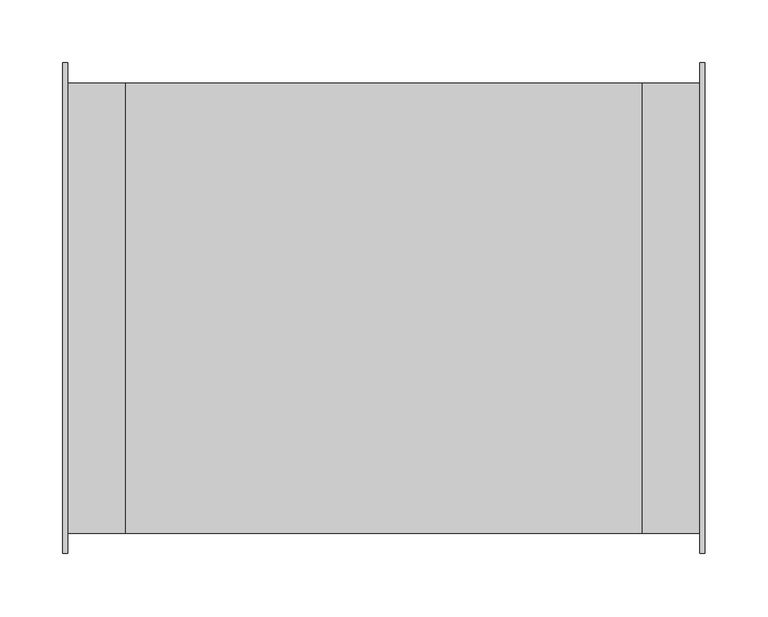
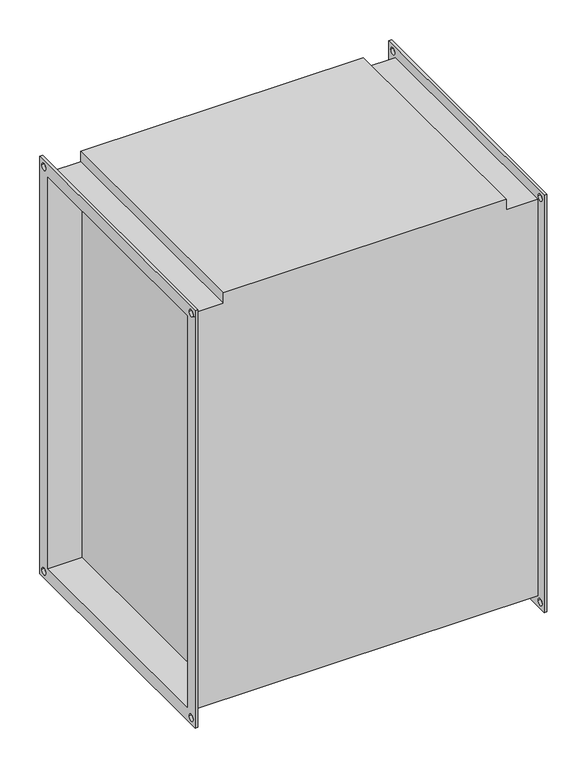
"""IFC4 building model written with IfcOpenShell, lengths in millimetres: proxy geometry, СВ_ВоздухонагревательЭлектрический_КанальныйПрямоугольный_200-1000_SPH-E : SPH-E-600x350/22,5."""

from ifc_helpers import new_model, si_unit, frame, origin, place, context, project, spatial, polyline, circle_curve, source, transform, mapped, element, save
from ifc_brep_helpers import plane_surface, revolved_surface, advanced_brep


def mechanical_equipment_5f8ae278(model_context):
    return source(origin(), model_context, "Body", "AdvancedBrep", [
        advanced_brep(
        [(-205.0, -179.0, 304.0), (-251.0, -179.0, 304.0), (-251.0, -179.0, -304.0), (251.0, -179.0, -304.0), (251.0, -179.0, 304.0), (205.0, -179.0, 304.0), (205.0, -179.0, 320.0), (-205.0, -179.0, 320.0), (-251.0, 179.0, -304.0), (251.0, 179.0, -304.0), (-251.0, 179.0, 304.0), (-205.0, 179.0, 304.0), (-205.0, 179.0, 320.0), (205.0, 179.0, 320.0), (205.0, 179.0, 304.0), (251.0, 179.0, 304.0), (205.0, 175.0, -300.0), (205.0, 175.0, 300.0), (205.0, -175.0, 300.0), (205.0, -175.0, -300.0), (-205.0, -175.0, 300.0), (-205.0, 175.0, 300.0), (-205.0, 175.0, -300.0), (-205.0, -175.0, -300.0), (-255.0, -195.0, 320.0), (-255.0, 195.0, 320.0), (-255.0, 195.0, -320.0), (-255.0, -195.0, -320.0), (-255.0, -175.0, 300.0), (-255.0, -175.0, -300.0), (-255.0, 175.0, -300.0), (-255.0, 175.0, 300.0), (-255.0, 180.0, 310.0), (-255.0, 190.0, 310.0), (-255.0, -190.0, 310.0), (-255.0, -180.0, 310.0), (-255.0, -190.0, -310.0), (-255.0, -180.0, -310.0), (-255.0, 180.0, -310.0), (-255.0, 190.0, -310.0), (-251.0, -195.0, 320.0), (-251.0, -195.0, -320.0), (-251.0, 195.0, -320.0), (-251.0, 195.0, 320.0), (-251.0, 190.0, 310.0), (-251.0, 180.0, 310.0), (-251.0, -180.0, 310.0), (-251.0, -190.0, 310.0), (-251.0, -180.0, -310.0), (-251.0, -190.0, -310.0), (-251.0, 190.0, -310.0), (-251.0, 180.0, -310.0), (251.0, 195.0, 320.0), (251.0, 195.0, -320.0), (251.0, -195.0, -320.0), (251.0, -195.0, 320.0), (251.0, 180.0, 310.0), (251.0, 190.0, 310.0), (251.0, -190.0, 310.0), (251.0, -180.0, 310.0), (251.0, -190.0, -310.0), (251.0, -180.0, -310.0), (251.0, 180.0, -310.0), (251.0, 190.0, -310.0), (255.0, 195.0, 320.0), (255.0, -195.0, 320.0), (255.0, -195.0, -320.0), (255.0, 195.0, -320.0), (255.0, 175.0, 300.0), (255.0, 175.0, -300.0), (255.0, -175.0, -300.0), (255.0, -175.0, 300.0), (255.0, 190.0, 310.0), (255.0, 180.0, 310.0), (255.0, -180.0, 310.0), (255.0, -190.0, 310.0), (255.0, -180.0, -310.0), (255.0, -190.0, -310.0), (255.0, 190.0, -310.0), (255.0, 180.0, -310.0)],
        [
            (0, 1),
            (1, 2),
            (2, 3),
            (3, 4),
            (4, 5),
            (5, 6),
            (6, 7),
            (7, 0),
            (2, 8),
            (8, 9),
            (9, 3),
            (10, 11),
            (11, 12),
            (12, 13),
            (13, 14),
            (14, 15),
            (15, 9),
            (8, 10),
            (0, 11),
            (10, 1),
            (13, 6),
            (5, 14),
            (16, 17),
            (17, 18),
            (18, 19),
            (19, 16),
            (7, 12),
            (20, 21),
            (21, 22),
            (22, 23),
            (23, 20),
            (4, 15),
            (24, 25),
            (25, 26),
            (26, 27),
            (27, 24),
            (28, 29),
            (29, 30),
            (30, 31),
            (31, 28),
            (32, 33, circle_curve(frame((-255.0, 185.0, 310.0), z_axis=(1.0, 0.0, 0.0), x_axis=(0.0, 1.0, 0.0)), 5.0)),
            (33, 32, circle_curve(frame((-255.0, 185.0, 310.0), z_axis=(1.0, 0.0, 0.0), x_axis=(0.0, 1.0, 0.0)), 5.0)),
            (34, 35, circle_curve(frame((-255.0, -185.0, 310.0), z_axis=(1.0, 0.0, 0.0), x_axis=(0.0, 1.0, 0.0)), 5.0)),
            (35, 34, circle_curve(frame((-255.0, -185.0, 310.0), z_axis=(1.0, 0.0, 0.0), x_axis=(0.0, 1.0, 0.0)), 5.0)),
            (36, 37, circle_curve(frame((-255.0, -185.0, -310.0), z_axis=(1.0, 0.0, 0.0), x_axis=(0.0, 1.0, 0.0)), 5.0)),
            (37, 36, circle_curve(frame((-255.0, -185.0, -310.0), z_axis=(1.0, 0.0, 0.0), x_axis=(0.0, 1.0, 0.0)), 5.0)),
            (38, 39, circle_curve(frame((-255.0, 185.0, -310.0), z_axis=(1.0, 0.0, 0.0), x_axis=(0.0, 1.0, 0.0)), 5.0)),
            (39, 38, circle_curve(frame((-255.0, 185.0, -310.0), z_axis=(1.0, 0.0, 0.0), x_axis=(0.0, 1.0, 0.0)), 5.0)),
            (40, 41),
            (41, 42),
            (42, 43),
            (43, 40),
            (44, 45, circle_curve(frame((-251.0, 185.0, 310.0), z_axis=(-1.0, 0.0, 0.0), x_axis=(0.0, 1.0, 0.0)), 5.0)),
            (45, 44, circle_curve(frame((-251.0, 185.0, 310.0), z_axis=(-1.0, 0.0, 0.0), x_axis=(0.0, 1.0, 0.0)), 5.0)),
            (46, 47, circle_curve(frame((-251.0, -185.0, 310.0), z_axis=(-1.0, 0.0, 0.0), x_axis=(0.0, 1.0, 0.0)), 5.0)),
            (47, 46, circle_curve(frame((-251.0, -185.0, 310.0), z_axis=(-1.0, 0.0, 0.0), x_axis=(0.0, 1.0, 0.0)), 5.0)),
            (48, 49, circle_curve(frame((-251.0, -185.0, -310.0), z_axis=(-1.0, 0.0, 0.0), x_axis=(0.0, 1.0, 0.0)), 5.0)),
            (49, 48, circle_curve(frame((-251.0, -185.0, -310.0), z_axis=(-1.0, 0.0, 0.0), x_axis=(0.0, 1.0, 0.0)), 5.0)),
            (50, 51, circle_curve(frame((-251.0, 185.0, -310.0), z_axis=(-1.0, 0.0, 0.0), x_axis=(0.0, 1.0, 0.0)), 5.0)),
            (51, 50, circle_curve(frame((-251.0, 185.0, -310.0), z_axis=(-1.0, 0.0, 0.0), x_axis=(0.0, 1.0, 0.0)), 5.0)),
            (27, 41),
            (40, 24),
            (26, 42),
            (25, 43),
            (52, 53),
            (53, 54),
            (54, 55),
            (55, 52),
            (56, 57, circle_curve(frame((251.0, 185.0, 310.0), z_axis=(1.0, 0.0, 0.0), x_axis=(0.0, 1.0, 0.0)), 5.0)),
            (57, 56, circle_curve(frame((251.0, 185.0, 310.0), z_axis=(1.0, 0.0, 0.0), x_axis=(0.0, 1.0, 0.0)), 5.0)),
            (58, 59, circle_curve(frame((251.0, -185.0, 310.0), z_axis=(1.0, 0.0, 0.0), x_axis=(0.0, 1.0, 0.0)), 5.0)),
            (59, 58, circle_curve(frame((251.0, -185.0, 310.0), z_axis=(1.0, 0.0, 0.0), x_axis=(0.0, 1.0, 0.0)), 5.0)),
            (60, 61, circle_curve(frame((251.0, -185.0, -310.0), z_axis=(1.0, 0.0, 0.0), x_axis=(0.0, 1.0, 0.0)), 5.0)),
            (61, 60, circle_curve(frame((251.0, -185.0, -310.0), z_axis=(1.0, 0.0, 0.0), x_axis=(0.0, 1.0, 0.0)), 5.0)),
            (62, 63, circle_curve(frame((251.0, 185.0, -310.0), z_axis=(1.0, 0.0, 0.0), x_axis=(0.0, 1.0, 0.0)), 5.0)),
            (63, 62, circle_curve(frame((251.0, 185.0, -310.0), z_axis=(1.0, 0.0, 0.0), x_axis=(0.0, 1.0, 0.0)), 5.0)),
            (64, 65),
            (65, 66),
            (66, 67),
            (67, 64),
            (68, 69),
            (69, 70),
            (70, 71),
            (71, 68),
            (72, 73, circle_curve(frame((255.0, 185.0, 310.0), z_axis=(-1.0, 0.0, 0.0), x_axis=(0.0, 1.0, 0.0)), 5.0)),
            (73, 72, circle_curve(frame((255.0, 185.0, 310.0), z_axis=(-1.0, 0.0, 0.0), x_axis=(0.0, 1.0, 0.0)), 5.0)),
            (74, 75, circle_curve(frame((255.0, -185.0, 310.0), z_axis=(-1.0, 0.0, 0.0), x_axis=(0.0, 1.0, 0.0)), 5.0)),
            (75, 74, circle_curve(frame((255.0, -185.0, 310.0), z_axis=(-1.0, 0.0, 0.0), x_axis=(0.0, 1.0, 0.0)), 5.0)),
            (76, 77, circle_curve(frame((255.0, -185.0, -310.0), z_axis=(-1.0, 0.0, 0.0), x_axis=(0.0, 1.0, 0.0)), 5.0)),
            (77, 76, circle_curve(frame((255.0, -185.0, -310.0), z_axis=(-1.0, 0.0, 0.0), x_axis=(0.0, 1.0, 0.0)), 5.0)),
            (78, 79, circle_curve(frame((255.0, 185.0, -310.0), z_axis=(-1.0, 0.0, 0.0), x_axis=(0.0, 1.0, 0.0)), 5.0)),
            (79, 78, circle_curve(frame((255.0, 185.0, -310.0), z_axis=(-1.0, 0.0, 0.0), x_axis=(0.0, 1.0, 0.0)), 5.0)),
            (55, 65),
            (64, 52),
            (54, 66),
            (53, 67),
            (31, 21),
            (20, 28),
            (30, 22),
            (29, 23),
            (68, 17),
            (16, 69),
            (19, 70),
            (18, 71),
            (32, 45),
            (44, 33),
            (56, 73),
            (72, 57),
            (34, 47),
            (46, 35),
            (58, 75),
            (74, 59),
            (36, 49),
            (48, 37),
            (60, 77),
            (76, 61),
            (38, 51),
            (50, 39),
            (62, 79),
            (78, 63),
        ],
        [
            plane_surface(frame((-205.0, -179.0, 304.0), z_axis=(0.0, -1.0, 0.0), x_axis=(-1.0, 0.0, 0.0))),
            plane_surface(frame((-205.0, -179.0, -304.0), z_axis=(0.0, 0.0, -1.0), x_axis=(-1.0, 0.0, 0.0))),
            plane_surface(frame((-205.0, 179.0, -304.0), z_axis=(0.0, 1.0, 0.0), x_axis=(-1.0, 0.0, 0.0))),
            plane_surface(frame((-205.0, 179.0, 304.0), z_axis=(0.0, 0.0, 1.0), x_axis=(-1.0, 0.0, 0.0))),
            plane_surface(frame((205.0, -179.0, 320.0), z_axis=(1.0, 0.0, 0.0), x_axis=(0.0, 0.0, -1.0))),
            plane_surface(frame((-205.0, -179.0, 320.0), z_axis=(-1.0, 0.0, 0.0), x_axis=(0.0, 0.0, 1.0))),
            plane_surface(frame((205.0, 179.0, 320.0), z_axis=(0.0, 0.0, 1.0), x_axis=(-1.0, 0.0, 0.0))),
            plane_surface(frame((251.0, 179.0, 304.0), z_axis=(0.0, 0.0, 1.0), x_axis=(-1.0, 0.0, 0.0))),
            plane_surface(frame((-255.0, -195.0, 320.0), z_axis=(-1.0, 0.0, 0.0), x_axis=(0.0, 0.0, 1.0))),
            plane_surface(frame((-251.0, -195.0, 320.0), z_axis=(1.0, 0.0, 0.0), x_axis=(0.0, 0.0, -1.0))),
            plane_surface(frame((-251.0, -195.0, 320.0), z_axis=(0.0, -1.0, 0.0), x_axis=(-1.0, 0.0, 0.0))),
            plane_surface(frame((-251.0, -195.0, -320.0), z_axis=(0.0, 0.0, -1.0), x_axis=(-1.0, 0.0, 0.0))),
            plane_surface(frame((-251.0, 195.0, -320.0), z_axis=(0.0, 1.0, 0.0), x_axis=(-1.0, 0.0, 0.0))),
            plane_surface(frame((-251.0, 195.0, 320.0), z_axis=(0.0, 0.0, 1.0), x_axis=(-1.0, 0.0, 0.0))),
            plane_surface(frame((251.0, 175.0, -300.0), z_axis=(-1.0, 0.0, 0.0), x_axis=(0.0, 0.0, 1.0))),
            plane_surface(frame((255.0, 175.0, -300.0), z_axis=(1.0, 0.0, 0.0), x_axis=(0.0, 0.0, -1.0))),
            plane_surface(frame((255.0, 195.0, 320.0), z_axis=(0.0, 0.0, 1.0), x_axis=(-1.0, 0.0, 0.0))),
            plane_surface(frame((255.0, -195.0, 320.0), z_axis=(0.0, -1.0, 0.0), x_axis=(-1.0, 0.0, 0.0))),
            plane_surface(frame((255.0, -195.0, -320.0), z_axis=(0.0, 0.0, -1.0), x_axis=(-1.0, 0.0, 0.0))),
            plane_surface(frame((255.0, 195.0, -320.0), z_axis=(0.0, 1.0, 0.0), x_axis=(-1.0, 0.0, 0.0))),
            plane_surface(frame((-251.0, -175.0, 300.0), z_axis=(0.0, 0.0, -1.0), x_axis=(-1.0, 0.0, 0.0))),
            plane_surface(frame((-251.0, 175.0, 300.0), z_axis=(0.0, -1.0, 0.0), x_axis=(-1.0, 0.0, 0.0))),
            plane_surface(frame((-251.0, 175.0, -300.0), z_axis=(0.0, 0.0, 1.0), x_axis=(-1.0, 0.0, 0.0))),
            plane_surface(frame((-251.0, -175.0, -300.0), z_axis=(0.0, 1.0, 0.0), x_axis=(-1.0, 0.0, 0.0))),
            plane_surface(frame((255.0, 175.0, 300.0), z_axis=(0.0, -1.0, 0.0), x_axis=(-1.0, 0.0, 0.0))),
            plane_surface(frame((255.0, 175.0, -300.0), z_axis=(0.0, 0.0, 1.0), x_axis=(-1.0, 0.0, 0.0))),
            plane_surface(frame((255.0, -175.0, -300.0), z_axis=(0.0, 1.0, 0.0), x_axis=(-1.0, 0.0, 0.0))),
            plane_surface(frame((255.0, -175.0, 300.0), z_axis=(0.0, 0.0, -1.0), x_axis=(-1.0, 0.0, 0.0))),
            revolved_surface(polyline([(-251.0, 190.0, 310.0), (-255.0, 190.0, 310.0)]), (-255.0, 185.0, 310.0), (1.0, 0.0, 0.0)),
            revolved_surface(polyline([(255.0, 190.0, 310.0), (251.0, 190.0, 310.0)]), (-255.0, 185.0, 310.0), (1.0, 0.0, 0.0)),
            revolved_surface(polyline([(-251.0, -180.0, 310.0), (-255.0, -180.0, 310.0)]), (0.0, -185.0, 310.0), (1.0, 0.0, 0.0)),
            revolved_surface(polyline([(255.0, -180.0, 310.0), (251.0, -180.0, 310.0)]), (0.0, -185.0, 310.0), (1.0, 0.0, 0.0)),
            revolved_surface(polyline([(-251.0, -180.0, -310.0), (-255.0, -180.0, -310.0)]), (0.0, -185.0, -310.0), (1.0, 0.0, 0.0)),
            revolved_surface(polyline([(255.0, -180.0, -310.0), (251.0, -180.0, -310.0)]), (0.0, -185.0, -310.0), (1.0, 0.0, 0.0)),
            revolved_surface(polyline([(-251.0, 190.0, -310.0), (-255.0, 190.0, -310.0)]), (0.0, 185.0, -310.0), (1.0, 0.0, 0.0)),
            revolved_surface(polyline([(255.0, 190.0, -310.0), (251.0, 190.0, -310.0)]), (0.0, 185.0, -310.0), (1.0, 0.0, 0.0)),
        ],
        [
            (0, [[1, 2, 3, 4, 5, 6, 7, 8]]),
            (1, [[-3, 9, 10, 11]]),
            (2, [[12, 13, 14, 15, 16, 17, -10, 18]]),
            (3, [[-1, 19, -12, 20]]),
            (4, [[21, -6, 22, -15]]),
            (4, [[23, 24, 25, 26]]),
            (5, [[27, -13, -19, -8]]),
            (5, [[28, 29, 30, 31]]),
            (6, [[-21, -14, -27, -7]]),
            (7, [[-5, 32, -16, -22]]),
            (8, [[33, 34, 35, 36], [37, 38, 39, 40], [41, 42], [43, 44], [45, 46], [47, 48]]),
            (9, [[49, 50, 51, 52], [-2, -20, -18, -9], [53, 54], [55, 56], [57, 58], [59, 60]]),
            (10, [[-36, 61, -49, 62]]),
            (11, [[-35, 63, -50, -61]]),
            (12, [[-34, 64, -51, -63]]),
            (13, [[-33, -62, -52, -64]]),
            (14, [[65, 66, 67, 68], [-4, -11, -17, -32], [69, 70], [71, 72], [73, 74], [75, 76]]),
            (15, [[77, 78, 79, 80], [81, 82, 83, 84], [85, 86], [87, 88], [89, 90], [91, 92]]),
            (16, [[-68, 93, -77, 94]]),
            (17, [[-67, 95, -78, -93]]),
            (18, [[-66, 96, -79, -95]]),
            (19, [[-65, -94, -80, -96]]),
            (20, [[-40, 97, -28, 98]]),
            (21, [[-39, 99, -29, -97]]),
            (22, [[-38, 100, -30, -99]]),
            (23, [[-37, -98, -31, -100]]),
            (24, [[-81, 101, -23, 102]]),
            (25, [[-82, -102, -26, 103]]),
            (26, [[-83, -103, -25, 104]]),
            (27, [[-101, -84, -104, -24]]),
            (28, [[105, -53, 106, -41]]),
            (29, [[107, -85, 108, -69]]),
            (28, [[-105, -42, -106, -54]]),
            (29, [[-107, -70, -108, -86]]),
            (30, [[109, -55, 110, -43]]),
            (31, [[111, -87, 112, -71]]),
            (30, [[-109, -44, -110, -56]]),
            (31, [[-111, -72, -112, -88]]),
            (32, [[113, -57, 114, -45]]),
            (33, [[115, -89, 116, -73]]),
            (32, [[-113, -46, -114, -58]]),
            (33, [[-115, -74, -116, -90]]),
            (34, [[117, -59, 118, -47]]),
            (35, [[119, -91, 120, -75]]),
            (34, [[-117, -48, -118, -60]]),
            (35, [[-119, -76, -120, -92]]),
        ],
    ),
    ])


if __name__ == "__main__":
    model = new_model("IFC4")
    model_context = context("Model", 3, world=origin())
    ifc_project = project(units=[si_unit("LENGTHUNIT", "METRE", prefix="MILLI")], contexts=[model_context])
    site = spatial("IfcSite", under=ifc_project)
    building = spatial("IfcBuilding", under=site)
    placement = place(None, origin())
    mechanical_equipment_shape = mechanical_equipment_5f8ae278(model_context)
    element("IfcBuildingElementProxy", 1, Name="СВ_ВоздухонагревательЭлектрический_КанальныйПрямоугольный_200-1000_SPH-E : SPH-E-600x350/22,5", ObjectType="СВ_ВоздухонагревательЭлектрический_КанальныйПрямоугольный_200-1000_SPH-E : SPH-E-600x350/22,5", at=placement, inside=building, context=model_context, shape_type="MappedRepresentation", body=[
        mapped(mechanical_equipment_shape, transform((0.0, 0.0, 0.0), x_axis=(1.0, 0.0, 0.0), y_axis=(0.0, 1.0, 0.0), z_axis=(0.0, 0.0, 1.0))),
    ])
    save(model, "model.ifc")
